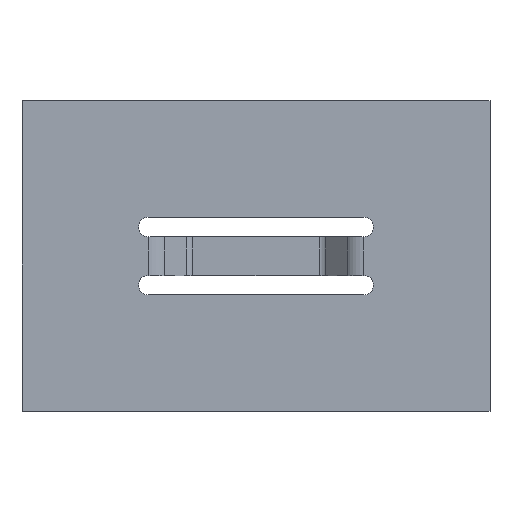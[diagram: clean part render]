
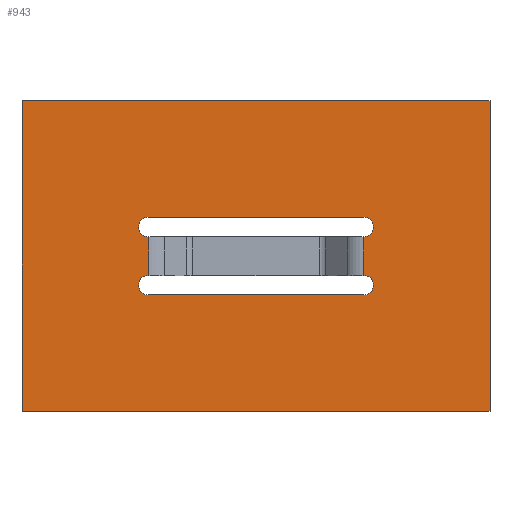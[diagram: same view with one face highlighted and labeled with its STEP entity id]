
A CAD part, top view. The second image highlights one B-rep face of the part: STEP entity #943.
In plain terms, the highlighted planar face has unit normal (0, 0, 1).
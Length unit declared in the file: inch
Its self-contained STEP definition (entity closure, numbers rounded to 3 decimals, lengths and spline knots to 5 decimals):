
#26=CARTESIAN_POINT('',(0.48428,-2.509,-0.26));
#27=VERTEX_POINT('',#26);
#42=CARTESIAN_POINT('',(1.9917,-2.509,-0.26));
#43=VERTEX_POINT('',#42);
#50=CARTESIAN_POINT('',(5.14322,-2.509,-0.26));
#51=DIRECTION('',(1.,0.,0.));
#52=VECTOR('',#51,1.);
#53=LINE('',#50,#52);
#54=EDGE_CURVE('',#27,#43,#53,.T.);
#73=CARTESIAN_POINT('',(1.9917,-1.50918,-0.26));
#74=VERTEX_POINT('',#73);
#81=CARTESIAN_POINT('',(1.9917,6.33578,-0.26));
#82=DIRECTION('',(0.,1.,0.));
#83=VECTOR('',#82,1.);
#84=LINE('',#81,#83);
#85=EDGE_CURVE('',#43,#74,#84,.T.);
#215=CARTESIAN_POINT('',(0.48428,-1.50918,-0.26));
#216=VERTEX_POINT('',#215);
#223=CARTESIAN_POINT('',(18.86325,-1.50918,-0.26));
#224=DIRECTION('',(1.,0.,0.));
#225=VECTOR('',#224,1.);
#226=LINE('',#223,#225);
#227=EDGE_CURVE('',#216,#74,#226,.T.);
#238=CARTESIAN_POINT('',(0.48428,12.59734,-0.26));
#239=DIRECTION('',(0.,1.,0.));
#240=VECTOR('',#239,1.);
#241=LINE('',#238,#240);
#242=EDGE_CURVE('',#27,#216,#241,.T.);
#254=CARTESIAN_POINT('',(1.58526,-1.947,-0.26));
#255=VERTEX_POINT('',#254);
#262=CARTESIAN_POINT('',(1.58526,-1.8845,-0.26));
#263=VERTEX_POINT('',#262);
#264=CARTESIAN_POINT('',(1.58526,-1.91575,-0.26));
#265=DIRECTION('',(0.,0.,1.));
#266=DIRECTION('',(0.,-1.,0.));
#267=AXIS2_PLACEMENT_3D('',#264,#265,#266);
#268=CIRCLE('',#267,0.03125);
#269=EDGE_CURVE('',#255,#263,#268,.T.);
#287=CARTESIAN_POINT('',(0.89074,-1.8845,-0.26));
#288=VERTEX_POINT('',#287);
#289=CARTESIAN_POINT('',(1.58526,-1.8845,-0.26));
#290=CARTESIAN_POINT('',(0.89074,-1.8845,-0.26));
#291=B_SPLINE_CURVE_WITH_KNOTS('',1,(#289,#290),.UNSPECIFIED.,.F.,.F.,(2,2),(0.,4.69806),.UNSPECIFIED.);
#292=EDGE_CURVE('',#263,#288,#291,.T.);
#310=CARTESIAN_POINT('',(0.89074,-1.947,-0.26));
#311=VERTEX_POINT('',#310);
#312=CARTESIAN_POINT('',(0.89074,-1.91575,-0.26));
#313=DIRECTION('',(0.,0.,1.));
#314=DIRECTION('',(0.,1.,0.));
#315=AXIS2_PLACEMENT_3D('',#312,#313,#314);
#316=CIRCLE('',#315,0.03125);
#317=EDGE_CURVE('',#288,#311,#316,.T.);
#371=CARTESIAN_POINT('',(0.893,-1.947,-0.26));
#372=VERTEX_POINT('',#371);
#382=CARTESIAN_POINT('',(0.893,-2.072,-0.26));
#383=VERTEX_POINT('',#382);
#384=CARTESIAN_POINT('',(0.893,-1.947,-0.26));
#385=DIRECTION('',(0.,-1.,0.));
#386=VECTOR('',#385,1.);
#387=LINE('',#384,#386);
#388=EDGE_CURVE('',#372,#383,#387,.T.);
#562=CARTESIAN_POINT('',(1.583,-2.072,-0.26));
#563=VERTEX_POINT('',#562);
#571=CARTESIAN_POINT('',(1.583,-1.947,-0.26));
#572=VERTEX_POINT('',#571);
#573=CARTESIAN_POINT('',(1.583,-2.072,-0.26));
#574=DIRECTION('',(0.,1.,0.));
#575=VECTOR('',#574,1.);
#576=LINE('',#573,#575);
#577=EDGE_CURVE('',#563,#572,#576,.T.);
#595=CARTESIAN_POINT('',(0.89074,-2.072,-0.26));
#596=VERTEX_POINT('',#595);
#603=CARTESIAN_POINT('',(0.89074,-2.1345,-0.26));
#604=VERTEX_POINT('',#603);
#605=CARTESIAN_POINT('',(0.89074,-2.10325,-0.26));
#606=DIRECTION('',(0.,0.,1.));
#607=DIRECTION('',(0.,1.,0.));
#608=AXIS2_PLACEMENT_3D('',#605,#606,#607);
#609=CIRCLE('',#608,0.03125);
#610=EDGE_CURVE('',#596,#604,#609,.T.);
#628=CARTESIAN_POINT('',(1.58526,-2.1345,-0.26));
#629=VERTEX_POINT('',#628);
#630=CARTESIAN_POINT('',(0.89074,-2.1345,-0.26));
#631=CARTESIAN_POINT('',(1.58526,-2.1345,-0.26));
#632=B_SPLINE_CURVE_WITH_KNOTS('',1,(#630,#631),.UNSPECIFIED.,.F.,.F.,(2,2),(0.,4.69806),.UNSPECIFIED.);
#633=EDGE_CURVE('',#604,#629,#632,.T.);
#651=CARTESIAN_POINT('',(1.58526,-2.072,-0.26));
#652=VERTEX_POINT('',#651);
#653=CARTESIAN_POINT('',(1.58526,-2.10325,-0.26));
#654=DIRECTION('',(0.,0.,1.));
#655=DIRECTION('',(0.,-1.,0.));
#656=AXIS2_PLACEMENT_3D('',#653,#654,#655);
#657=CIRCLE('',#656,0.03125);
#658=EDGE_CURVE('',#629,#652,#657,.T.);
#811=CARTESIAN_POINT('',(1.58526,-2.072,-0.26));
#812=CARTESIAN_POINT('',(1.583,-2.072,-0.26));
#813=B_SPLINE_CURVE_WITH_KNOTS('',1,(#811,#812),.UNSPECIFIED.,.F.,.F.,(2,2),(4.48667,4.50192),.UNSPECIFIED.);
#814=EDGE_CURVE('',#652,#563,#813,.T.);
#823=CARTESIAN_POINT('',(0.893,-2.072,-0.26));
#824=CARTESIAN_POINT('',(0.89074,-2.072,-0.26));
#825=B_SPLINE_CURVE_WITH_KNOTS('',1,(#823,#824),.UNSPECIFIED.,.F.,.F.,(2,2),(0.19614,0.21139),.UNSPECIFIED.);
#826=EDGE_CURVE('',#383,#596,#825,.T.);
#875=CARTESIAN_POINT('',(0.89074,-1.947,-0.26));
#876=CARTESIAN_POINT('',(0.893,-1.947,-0.26));
#877=B_SPLINE_CURVE_WITH_KNOTS('',1,(#875,#876),.UNSPECIFIED.,.F.,.F.,(2,2),(4.48667,4.50192),.UNSPECIFIED.);
#878=EDGE_CURVE('',#311,#372,#877,.T.);
#887=CARTESIAN_POINT('',(1.583,-1.947,-0.26));
#888=CARTESIAN_POINT('',(1.58526,-1.947,-0.26));
#889=B_SPLINE_CURVE_WITH_KNOTS('',1,(#887,#888),.UNSPECIFIED.,.F.,.F.,(2,2),(0.19614,0.21139),.UNSPECIFIED.);
#890=EDGE_CURVE('',#572,#255,#889,.T.);
#918=ORIENTED_EDGE('',*,*,#54,.T.);
#919=ORIENTED_EDGE('',*,*,#85,.T.);
#920=ORIENTED_EDGE('',*,*,#227,.F.);
#921=ORIENTED_EDGE('',*,*,#242,.F.);
#922=EDGE_LOOP('',(#918,#919,#920,#921));
#923=FACE_OUTER_BOUND('',#922,.T.);
#924=ORIENTED_EDGE('',*,*,#814,.F.);
#925=ORIENTED_EDGE('',*,*,#658,.F.);
#926=ORIENTED_EDGE('',*,*,#633,.F.);
#927=ORIENTED_EDGE('',*,*,#610,.F.);
#928=ORIENTED_EDGE('',*,*,#826,.F.);
#929=ORIENTED_EDGE('',*,*,#388,.F.);
#930=ORIENTED_EDGE('',*,*,#878,.F.);
#931=ORIENTED_EDGE('',*,*,#317,.F.);
#932=ORIENTED_EDGE('',*,*,#292,.F.);
#933=ORIENTED_EDGE('',*,*,#269,.F.);
#934=ORIENTED_EDGE('',*,*,#890,.F.);
#935=ORIENTED_EDGE('',*,*,#577,.F.);
#936=EDGE_LOOP('',(#924,#925,#926,#927,#928,#929,#930,#931,#932,#933,#934,#935));
#937=FACE_BOUND('',#936,.T.);
#938=CARTESIAN_POINT('',(0.,-0.645,-0.26));
#939=DIRECTION('',(0.,0.,-1.));
#940=DIRECTION('',(-1.,0.,0.));
#941=AXIS2_PLACEMENT_3D('',#938,#939,#940);
#942=PLANE('',#941);
#943=ADVANCED_FACE('',(#923,#937),#942,.F.);
